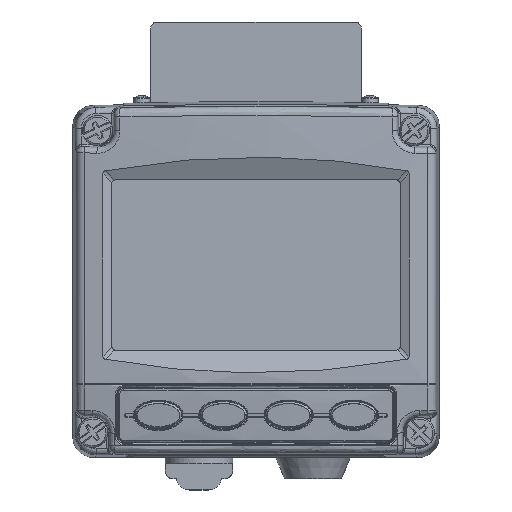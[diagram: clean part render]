
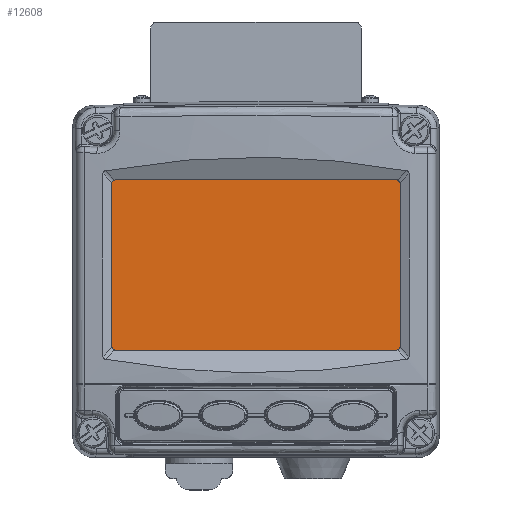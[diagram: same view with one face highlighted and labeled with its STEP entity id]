
A CAD part, top view. The second image highlights one B-rep face of the part: STEP entity #12608.
In plain terms, the highlighted planar face has unit normal (0, 0, 1).
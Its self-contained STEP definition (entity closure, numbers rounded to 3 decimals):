
#446 = LINE ( 'NONE', #35536, #20336 ) ;
#1198 = EDGE_CURVE ( 'NONE', #21456, #12323, #41268, .T. ) ;
#1936 = EDGE_LOOP ( 'NONE', ( #36277, #39351, #30478, #8179, #18892, #29833, #18787, #35241 ) ) ;
#2429 = CARTESIAN_POINT ( 'NONE',  ( -54., -28.5, 32.05 ) ) ;
#4762 = LINE ( 'NONE', #48395, #14744 ) ;
#6545 = CARTESIAN_POINT ( 'NONE',  ( -55., -27.5, 32.05 ) ) ;
#8179 = ORIENTED_EDGE ( 'NONE', *, *, #15244, .T. ) ;
#8604 = EDGE_CURVE ( 'NONE', #37935, #26413, #16228, .T. ) ;
#8938 = CARTESIAN_POINT ( 'NONE',  ( 54., -28.5, 32.05 ) ) ;
#9505 = CARTESIAN_POINT ( 'NONE',  ( -54., -28.5, 32.05 ) ) ;
#10318 = DIRECTION ( 'NONE',  ( 0.707, -0.707, 0. ) ) ;
#11055 = PLANE ( 'NONE',  #41614 ) ;
#11300 = VECTOR ( 'NONE', #24878, 1000. ) ;
#11335 = DIRECTION ( 'NONE',  ( 0., 0., -1. ) ) ;
#12217 = DIRECTION ( 'NONE',  ( -0.707, -0.707, 0. ) ) ;
#12323 = VERTEX_POINT ( 'NONE', #43182 ) ;
#12420 = LINE ( 'NONE', #6545, #31203 ) ;
#12608 = ADVANCED_FACE ( 'NONE', ( #18080 ), #11055, .F. ) ;
#13168 = CARTESIAN_POINT ( 'NONE',  ( -54., 38.5, 32.05 ) ) ;
#13615 = EDGE_CURVE ( 'NONE', #26413, #35968, #4762, .T. ) ;
#14291 = VECTOR ( 'NONE', #43651, 1000. ) ;
#14744 = VECTOR ( 'NONE', #12217, 1000. ) ;
#15244 = EDGE_CURVE ( 'NONE', #12323, #43657, #18603, .T. ) ;
#16228 = LINE ( 'NONE', #13168, #44991 ) ;
#16499 = VECTOR ( 'NONE', #17562, 1000. ) ;
#16834 = DIRECTION ( 'NONE',  ( 0., -1., 0. ) ) ;
#17562 = DIRECTION ( 'NONE',  ( 0., 1., 0. ) ) ;
#18080 = FACE_OUTER_BOUND ( 'NONE', #1936, .T. ) ;
#18500 = CARTESIAN_POINT ( 'NONE',  ( 55., -27.5, 32.05 ) ) ;
#18603 = LINE ( 'NONE', #8938, #47391 ) ;
#18787 = ORIENTED_EDGE ( 'NONE', *, *, #8604, .T. ) ;
#18892 = ORIENTED_EDGE ( 'NONE', *, *, #41677, .T. ) ;
#19940 = DIRECTION ( 'NONE',  ( 0.707, 0.707, 0. ) ) ;
#20336 = VECTOR ( 'NONE', #16834, 1000. ) ;
#21456 = VERTEX_POINT ( 'NONE', #9505 ) ;
#24878 = DIRECTION ( 'NONE',  ( 1., 0., 0. ) ) ;
#26413 = VERTEX_POINT ( 'NONE', #31207 ) ;
#29833 = ORIENTED_EDGE ( 'NONE', *, *, #37229, .T. ) ;
#30478 = ORIENTED_EDGE ( 'NONE', *, *, #1198, .T. ) ;
#31203 = VECTOR ( 'NONE', #10318, 1000. ) ;
#31207 = CARTESIAN_POINT ( 'NONE',  ( -54., 38.5, 32.05 ) ) ;
#31285 = EDGE_CURVE ( 'NONE', #40144, #21456, #12420, .T. ) ;
#33828 = CARTESIAN_POINT ( 'NONE',  ( 0., 5., 32.05 ) ) ;
#35241 = ORIENTED_EDGE ( 'NONE', *, *, #13615, .T. ) ;
#35536 = CARTESIAN_POINT ( 'NONE',  ( -55., -27.5, 32.05 ) ) ;
#35968 = VERTEX_POINT ( 'NONE', #40882 ) ;
#36277 = ORIENTED_EDGE ( 'NONE', *, *, #46584, .T. ) ;
#36465 = LINE ( 'NONE', #47454, #16499 ) ;
#37229 = EDGE_CURVE ( 'NONE', #46160, #37935, #44230, .T. ) ;
#37626 = DIRECTION ( 'NONE',  ( -1., 0., 0. ) ) ;
#37935 = VERTEX_POINT ( 'NONE', #45896 ) ;
#39351 = ORIENTED_EDGE ( 'NONE', *, *, #31285, .T. ) ;
#39914 = CARTESIAN_POINT ( 'NONE',  ( 54., 38.5, 32.05 ) ) ;
#40144 = VERTEX_POINT ( 'NONE', #42140 ) ;
#40882 = CARTESIAN_POINT ( 'NONE',  ( -55., 37.5, 32.05 ) ) ;
#41268 = LINE ( 'NONE', #2429, #11300 ) ;
#41614 = AXIS2_PLACEMENT_3D ( 'NONE', #33828, #11335, #37626 ) ;
#41677 = EDGE_CURVE ( 'NONE', #43657, #46160, #36465, .T. ) ;
#42140 = CARTESIAN_POINT ( 'NONE',  ( -55., -27.5, 32.05 ) ) ;
#42610 = CARTESIAN_POINT ( 'NONE',  ( 55., 37.5, 32.05 ) ) ;
#43182 = CARTESIAN_POINT ( 'NONE',  ( 54., -28.5, 32.05 ) ) ;
#43651 = DIRECTION ( 'NONE',  ( -0.707, 0.707, 0. ) ) ;
#43657 = VERTEX_POINT ( 'NONE', #18500 ) ;
#44230 = LINE ( 'NONE', #39914, #14291 ) ;
#44991 = VECTOR ( 'NONE', #47045, 1000. ) ;
#45896 = CARTESIAN_POINT ( 'NONE',  ( 54., 38.5, 32.05 ) ) ;
#46160 = VERTEX_POINT ( 'NONE', #42610 ) ;
#46584 = EDGE_CURVE ( 'NONE', #35968, #40144, #446, .T. ) ;
#47045 = DIRECTION ( 'NONE',  ( -1., 0., 0. ) ) ;
#47391 = VECTOR ( 'NONE', #19940, 1000. ) ;
#47454 = CARTESIAN_POINT ( 'NONE',  ( 55., -27.5, 32.05 ) ) ;
#48395 = CARTESIAN_POINT ( 'NONE',  ( -55., 37.5, 32.05 ) ) ;
